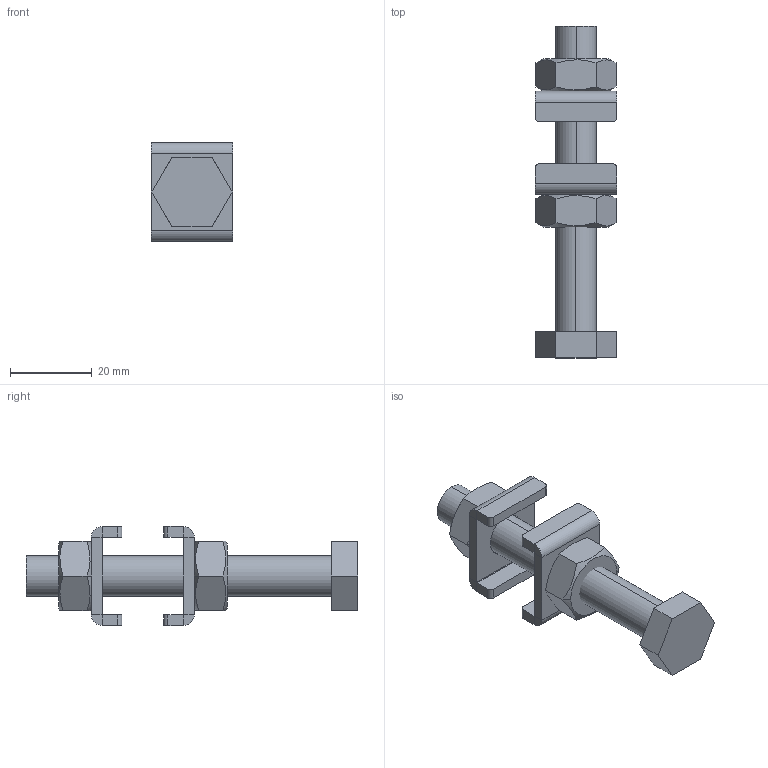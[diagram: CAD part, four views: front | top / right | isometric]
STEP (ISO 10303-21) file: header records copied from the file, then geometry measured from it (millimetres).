
FILE_DESCRIPTION (( 'STEP AP203' ), '1' );
FILE_NAME ('PS-M10.STEP', '2011-05-20T20:14:27', ( 'Usuario' ), ( '' ), 'SwSTEP 2.0', 'SolidWorks 2011', '' );
FILE_SCHEMA (( 'CONFIG_CONTROL_DESIGN' ));
Length unit declared in the file: millimetre
Products named in the file (4): PS-M10; 11.50003; 14.10003; 12.50021
Assembly tree (5 placements, depth 2):
  PS-M10
    12.50021
    11.50003  x2
    14.10003  x2
Bounding box: 20 x 81.4 x 24.3 mm (x, y, z)
Volume: 13529.4 mm3; surface area: 8254.7 mm2
Topology: 5 solids, 5 shells, 103 faces, 236 edges, 144 vertices
Faces by surface type: plane 61, cylinder 26, cone 16
Entity records: 2170 total; most frequent: CARTESIAN_POINT 399, DIRECTION 288, ORIENTED_EDGE 260, EDGE_CURVE 130, AXIS2_PLACEMENT_3D 105, VERTEX_POINT 80, VECTOR 78, LINE 78
